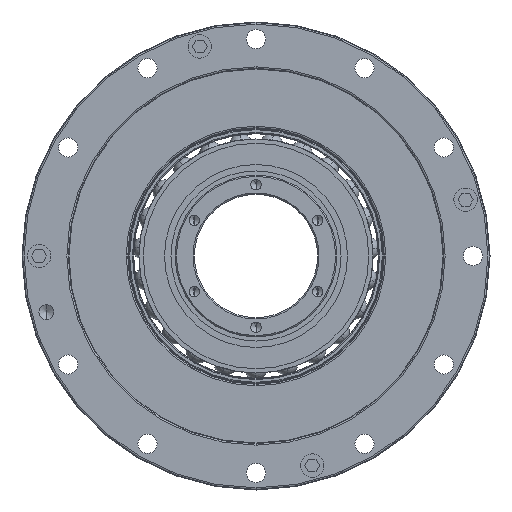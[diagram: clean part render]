
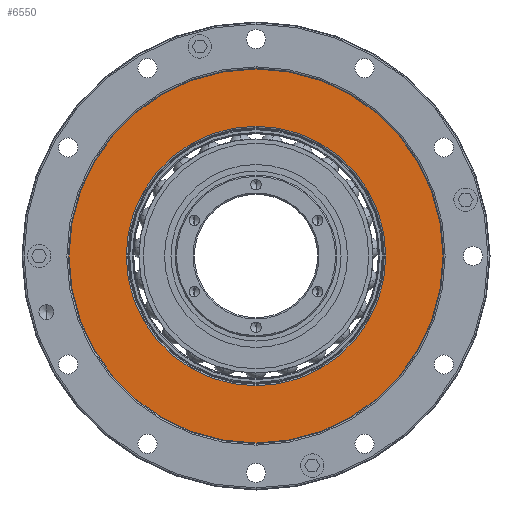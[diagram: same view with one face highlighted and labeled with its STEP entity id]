
A CAD part, left-side view. The second image highlights one B-rep face of the part: STEP entity #6550.
In plain terms, the highlighted planar face has unit normal (-1, 0, 0).
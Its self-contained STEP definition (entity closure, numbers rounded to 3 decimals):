
#1239=CARTESIAN_POINT('',(2.8,0.,0.));
#1240=DIRECTION('',(-1.,0.,0.));
#1241=DIRECTION('',(0.,0.,-1.));
#1242=AXIS2_PLACEMENT_3D('',#1239,#1240,#1241);
#1247=CARTESIAN_POINT('',(2.8,0.,0.));
#1248=DIRECTION('',(-1.,0.,0.));
#1249=DIRECTION('',(0.,0.,1.));
#1250=AXIS2_PLACEMENT_3D('',#1247,#1248,#1249);
#1255=CARTESIAN_POINT('',(2.8,0.,0.));
#1256=DIRECTION('',(1.,0.,0.));
#1257=DIRECTION('',(0.,0.,-1.));
#1258=AXIS2_PLACEMENT_3D('',#1255,#1256,#1257);
#1263=CARTESIAN_POINT('',(2.8,0.,0.));
#1264=DIRECTION('',(1.,0.,0.));
#1265=DIRECTION('',(0.,0.,1.));
#1266=AXIS2_PLACEMENT_3D('',#1263,#1264,#1265);
#5729=CARTESIAN_POINT('',(2.8,0.,-43.962));
#5730=VERTEX_POINT('',#5729);
#5731=CARTESIAN_POINT('',(2.8,0.,43.962));
#5732=VERTEX_POINT('',#5731);
#5741=CARTESIAN_POINT('',(2.8,0.,30.5));
#5742=VERTEX_POINT('',#5741);
#5743=CARTESIAN_POINT('',(2.8,0.,-30.5));
#5744=VERTEX_POINT('',#5743);
#6534=CARTESIAN_POINT('',(2.8,43.962,0.));
#6535=DIRECTION('',(-1.,0.,0.));
#6536=DIRECTION('',(0.,0.,1.));
#6537=AXIS2_PLACEMENT_3D('',#6534,#6535,#6536);
#6538=PLANE('',#6537);
#6540=ORIENTED_EDGE('',*,*,#6539,.F.);
#6542=ORIENTED_EDGE('',*,*,#6541,.F.);
#6543=EDGE_LOOP('',(#6540,#6542));
#6544=FACE_OUTER_BOUND('',#6543,.F.);
#6545=ORIENTED_EDGE('',*,*,#6524,.F.);
#6547=ORIENTED_EDGE('',*,*,#6546,.F.);
#6548=EDGE_LOOP('',(#6545,#6547));
#6549=FACE_BOUND('',#6548,.F.);
#1243=CIRCLE('',#1242,43.962);
#1251=CIRCLE('',#1250,43.962);
#1259=CIRCLE('',#1258,30.5);
#1267=CIRCLE('',#1266,30.5);
#6524=EDGE_CURVE('',#5744,#5742,#1259,.T.);
#6539=EDGE_CURVE('',#5730,#5732,#1243,.T.);
#6541=EDGE_CURVE('',#5732,#5730,#1251,.T.);
#6546=EDGE_CURVE('',#5742,#5744,#1267,.T.);
#6550=ADVANCED_FACE('',(#6544,#6549),#6538,.T.);
